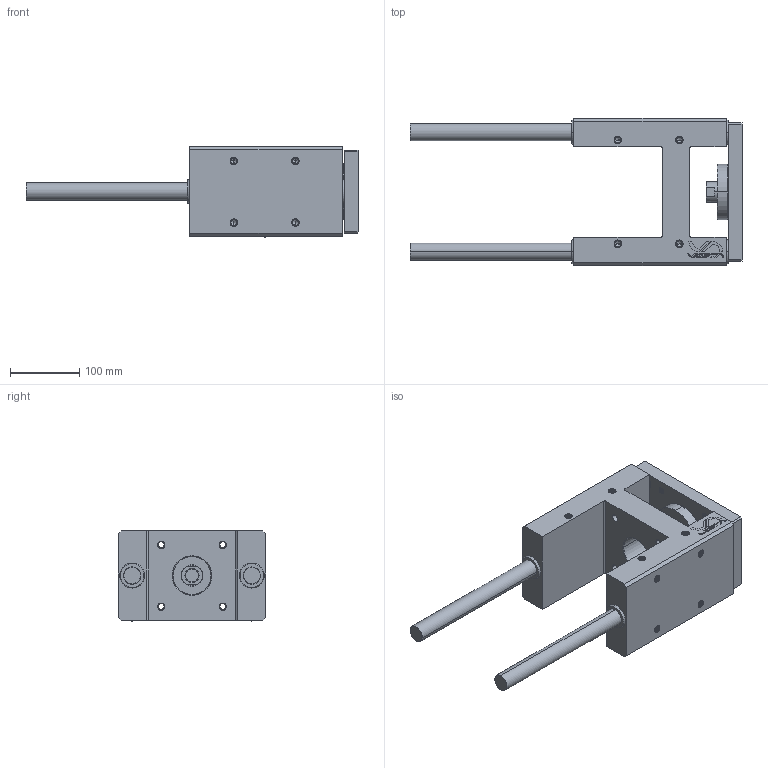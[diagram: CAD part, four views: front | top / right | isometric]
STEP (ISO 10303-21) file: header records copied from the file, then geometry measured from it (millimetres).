
FILE_DESCRIPTION (( 'STEP AP203' ), '1' );
FILE_NAME ('GLH100.0200.STEP', '2005-10-26T08:13:53', ( 'Vesta Automation srl' ), ( 'Vesta Automation srl' ), 'SwSTEP 2.0', 'SolidWorks 2005187', '' );
FILE_SCHEMA (( 'CONFIG_CONTROL_DESIGN' ));
Length unit declared in the file: millimetre
Products named in the file (4): GLH100.0200; SUPPORTING BODY-GLH100; PLATE-GLH100; GUIDE STEMS-GLH100_STROKE 0200
Assembly tree (4 placements, depth 2):
  GLH100.0200
    GUIDE STEMS-GLH100_STROKE 0200  x2
    PLATE-GLH100
    SUPPORTING BODY-GLH100
Bounding box: 480 x 213 x 130.4 mm (x, y, z)
Volume: 3641506.6 mm3; surface area: 409377.4 mm2
Topology: 4 solids, 6 shells, 1265 faces, 2722 edges, 1484 vertices
Faces by surface type: cone 994, plane 167, cylinder 102, sphere 2
Entity records: 33692 total; most frequent: DIRECTION 6416, CARTESIAN_POINT 5490, ORIENTED_EDGE 5368, EDGE_CURVE 2684, AXIS2_PLACEMENT_3D 2482, VERTEX_POINT 1476, VECTOR 1452, LINE 1452
